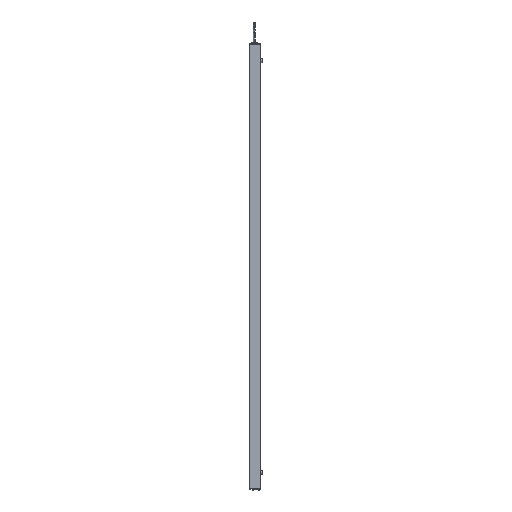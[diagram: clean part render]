
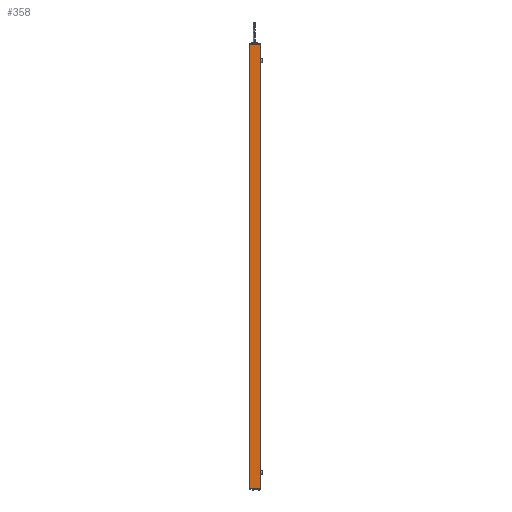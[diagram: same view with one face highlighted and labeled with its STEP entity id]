
A CAD part, left-side view. The second image highlights one B-rep face of the part: STEP entity #358.
In plain terms, the highlighted planar face has unit normal (-1, 0, 0).
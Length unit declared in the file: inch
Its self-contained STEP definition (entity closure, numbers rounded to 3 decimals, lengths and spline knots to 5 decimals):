
#345 = DIRECTION ( 'NONE',  ( 0., 0., -1. ) ) ;
#358 = ADVANCED_FACE ( 'NONE', ( #6072 ), #6166, .F. ) ;
#565 = LINE ( 'NONE', #4635, #1902 ) ;
#1318 = CARTESIAN_POINT ( 'NONE',  ( -0.665, 0.015, -23.1975 ) ) ;
#1902 = VECTOR ( 'NONE', #14949, 39.37008 ) ;
#2088 = VECTOR ( 'NONE', #8702, 39.37008 ) ;
#2609 = LINE ( 'NONE', #14175, #17593 ) ;
#3238 = VERTEX_POINT ( 'NONE', #7038 ) ;
#3268 = EDGE_CURVE ( 'NONE', #5318, #17555, #2609, .T. ) ;
#3319 = ORIENTED_EDGE ( 'NONE', *, *, #11371, .T. ) ;
#4635 = CARTESIAN_POINT ( 'NONE',  ( -0.665, 0., 23.1975 ) ) ;
#5053 = ORIENTED_EDGE ( 'NONE', *, *, #7996, .T. ) ;
#5318 = VERTEX_POINT ( 'NONE', #13947 ) ;
#6072 = FACE_OUTER_BOUND ( 'NONE', #13117, .T. ) ;
#6166 = PLANE ( 'NONE',  #17169 ) ;
#6502 = LINE ( 'NONE', #8770, #15872 ) ;
#7038 = CARTESIAN_POINT ( 'NONE',  ( -0.665, 1.105, 23.1975 ) ) ;
#7153 = ORIENTED_EDGE ( 'NONE', *, *, #3268, .T. ) ;
#7513 = CARTESIAN_POINT ( 'NONE',  ( -0.665, 0., 23.1975 ) ) ;
#7996 = EDGE_CURVE ( 'NONE', #3238, #5318, #10458, .T. ) ;
#8206 = VERTEX_POINT ( 'NONE', #13882 ) ;
#8702 = DIRECTION ( 'NONE',  ( 0., 0., -1. ) ) ;
#8770 = CARTESIAN_POINT ( 'NONE',  ( -0.665, 0.015, 23.1975 ) ) ;
#10458 = LINE ( 'NONE', #13030, #2088 ) ;
#11371 = EDGE_CURVE ( 'NONE', #17555, #8206, #6502, .T. ) ;
#13030 = CARTESIAN_POINT ( 'NONE',  ( -0.665, 1.105, 23.1975 ) ) ;
#13117 = EDGE_LOOP ( 'NONE', ( #14985, #5053, #7153, #3319 ) ) ;
#13882 = CARTESIAN_POINT ( 'NONE',  ( -0.665, 0.015, 23.1975 ) ) ;
#13947 = CARTESIAN_POINT ( 'NONE',  ( -0.665, 1.105, -23.1975 ) ) ;
#14175 = CARTESIAN_POINT ( 'NONE',  ( -0.665, 0., -23.1975 ) ) ;
#14949 = DIRECTION ( 'NONE',  ( 0., -1., 0. ) ) ;
#14985 = ORIENTED_EDGE ( 'NONE', *, *, #17791, .F. ) ;
#15872 = VECTOR ( 'NONE', #15996, 39.37008 ) ;
#15996 = DIRECTION ( 'NONE',  ( 0., 0., 1. ) ) ;
#17169 = AXIS2_PLACEMENT_3D ( 'NONE', #7513, #17708, #345 ) ;
#17183 = DIRECTION ( 'NONE',  ( 0., -1., 0. ) ) ;
#17555 = VERTEX_POINT ( 'NONE', #1318 ) ;
#17593 = VECTOR ( 'NONE', #17183, 39.37008 ) ;
#17708 = DIRECTION ( 'NONE',  ( 1., 0., 0. ) ) ;
#17791 = EDGE_CURVE ( 'NONE', #3238, #8206, #565, .T. ) ;
